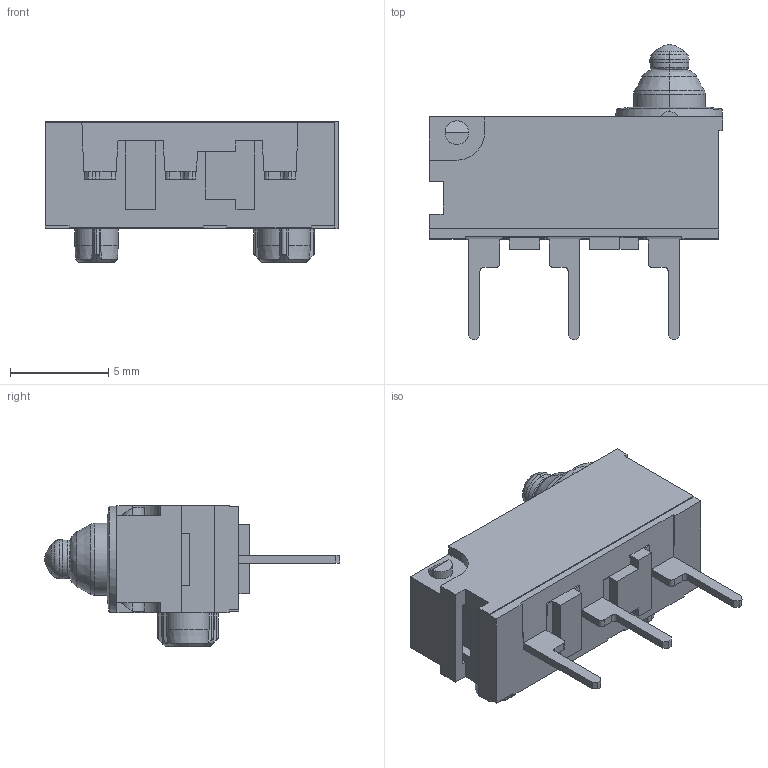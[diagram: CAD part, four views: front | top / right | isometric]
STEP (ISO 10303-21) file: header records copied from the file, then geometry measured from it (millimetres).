
FILE_DESCRIPTION (( 'STEP AP214' ), '1' );
FILE_NAME ('SPVQ710203.STEP', '2018-06-21T05:41:30', ( '' ), ( '' ), 'SwSTEP 2.0', 'SolidWorks 2017', '' );
FILE_SCHEMA (( 'AUTOMOTIVE_DESIGN' ));
Length unit declared in the file: millimetre
Products named in the file (1): SPVQ710203
Bounding box: 14.9 x 15.03 x 7.15 mm (x, y, z)
Volume: 524.3 mm3; surface area: 573.8 mm2
Topology: 1 solids, 1 shells, 207 faces, 555 edges, 361 vertices
Faces by surface type: plane 122, cylinder 41, cone 33, bspline 11
Entity records: 8041 total; most frequent: CARTESIAN_POINT 2530, ORIENTED_EDGE 1110, DIRECTION 844, EDGE_CURVE 555, VERTEX_POINT 361, VECTOR 336, LINE 336, AXIS2_PLACEMENT_3D 254
